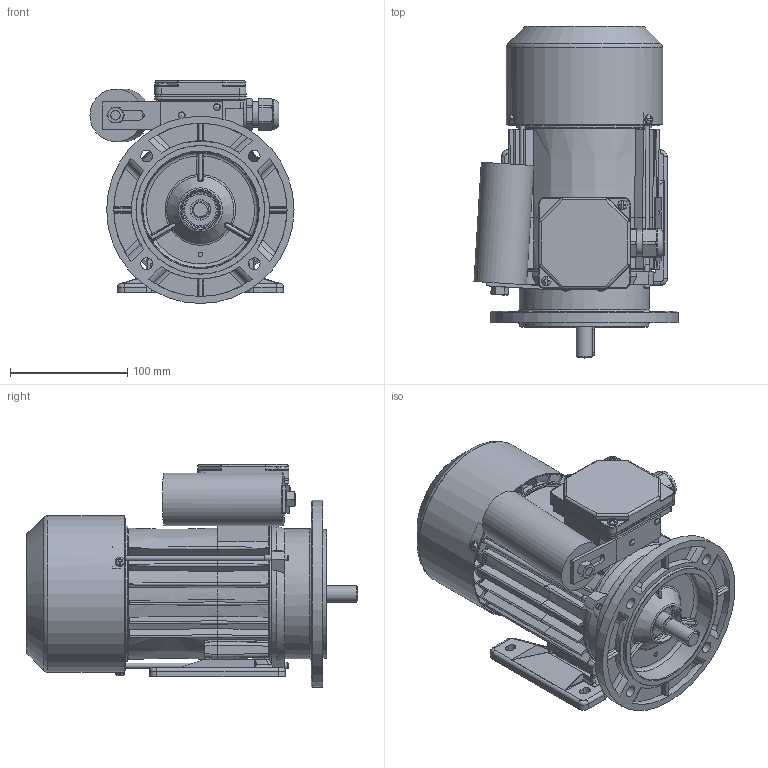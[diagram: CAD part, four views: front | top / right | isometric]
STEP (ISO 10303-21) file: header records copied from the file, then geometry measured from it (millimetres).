
FILE_DESCRIPTION(/* description */ ('Unknown'),/* implementation_level */ '2;1');
FILE_NAME(/* name */ '3SSIEL71-4B',/* time_stamp */ '2024-06-18T12:41:37+02:00',/* author */ ('Unknown'),/* organization */ ('Unknown'),/* preprocessor_version */ 'ST-DEVELOPER v16.7',/* originating_system */ 'Solid Edge',/* authorisation */ 'Unknown');
FILE_SCHEMA (('AUTOMOTIVE_DESIGN {1 0 10303 214 3 1 1}'));
Products named in the file (1): Czêœæ21
Bounding box: 174.3 x 283.48 x 190.5 mm (x, y, z)
Volume: 1010524.9 mm3; surface area: 492253.9 mm2
Topology: 2 solids, 2 shells, 2690 faces, 7293 edges, 4619 vertices
Faces by surface type: plane 1124, cylinder 754, bspline 421, torus 183, cone 180, sphere 28
Full cylindrical faces by diameter (mm): 2 x2, 2.4 x2, 3 x1, 3.7 x4, 3.8 x4, 4 x5, 4.3 x2, 4.4 x3, 4.5 x2, 4.8 x2, 5 x8, 5.1 x3, 5.5 x3, 5.8 x4, 6 x2, 6.5 x1, 7 x1, 8 x7, 10 x4, 13.599 x1, 13.999 x1, 15.898 x1, 16.098 x1, 16.498 x1, 16.998 x2, 17.4 x2, 21.998 x2, 22.3 x1, 22.498 x1, 22.648 x1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
Entity records: 111439 total; most frequent: CARTESIAN_POINT 29468, ORIENTED_EDGE 13782, DIRECTION 12175, EDGE_CURVE 6891, AXIS2_PLACEMENT_3D 4594, VERTEX_POINT 4479, EDGE_LOOP 3162, FACE_BOUND 3162
